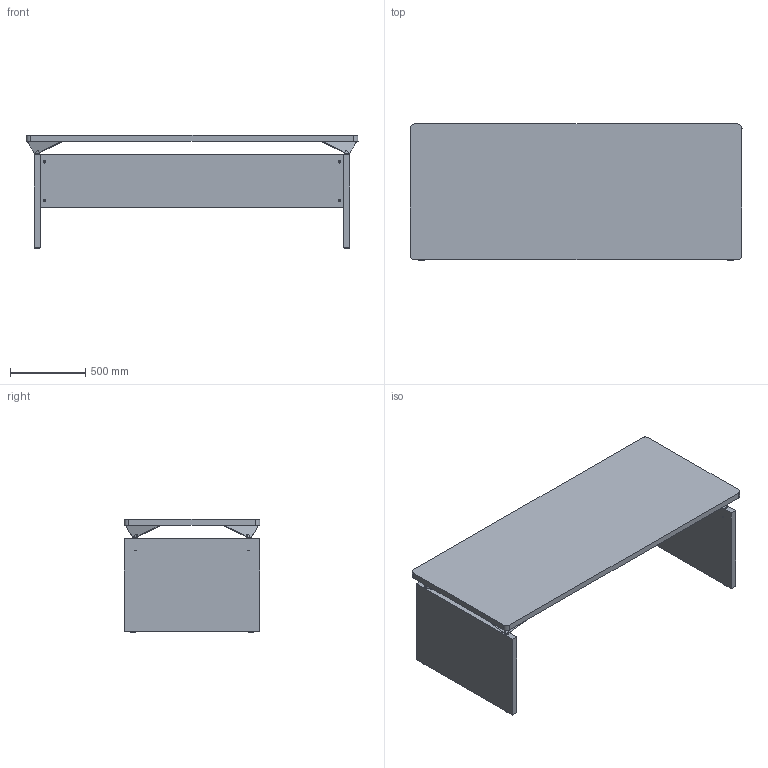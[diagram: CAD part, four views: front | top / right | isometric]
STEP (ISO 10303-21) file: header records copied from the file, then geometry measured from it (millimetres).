
FILE_DESCRIPTION(('STEP AP203'),'2;1');
FILE_NAME('JL125V_JL SCRIV-DIREZ-PANN-2200x900.stp','2021-12-16T15:27:36',(''),(''),'2019.1.123','THINKDESIGN','');
FILE_SCHEMA(('CONFIG_CONTROL_DESIGN'));
Bounding box: 2200 x 900.03 x 750 mm (x, y, z)
Volume: 136681833 mm3; surface area: 8666084.4 mm2
Topology: 39 solids, 39 shells, 2052 faces, 7850 edges, 6810 vertices
Faces by surface type: plane 1389, cylinder 523, bspline 140
Full cylindrical faces by diameter (mm): 3.7 x4, 4.4 x20, 5 x8, 6 x19, 6.4 x20, 7 x4, 8 x48, 10 x4, 14.8 x4, 15 x4, 21 x4, 25 x4, 26 x4, 34 x8
Entity records: 92695 total; most frequent: CARTESIAN_POINT 31739, DIRECTION 14450, ORIENTED_EDGE 6644, AXIS2_PLACEMENT_3D 5072, COMPOSITE_CURVE_SEGMENT 4528, TRIMMED_CURVE 4480, VECTOR 4306, LINE 4306
